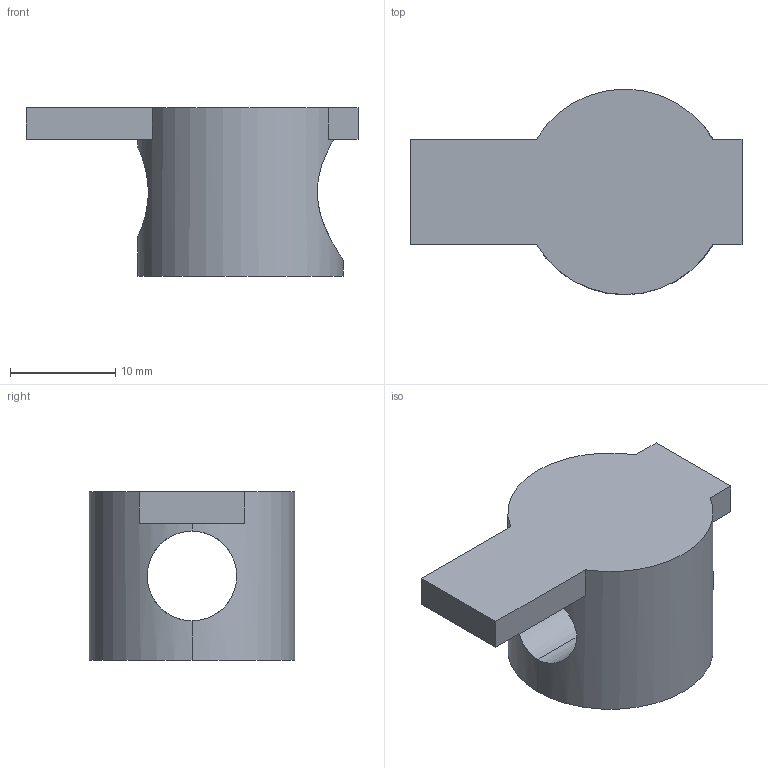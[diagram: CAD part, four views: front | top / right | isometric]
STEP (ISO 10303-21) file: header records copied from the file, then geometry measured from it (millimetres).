
FILE_DESCRIPTION (( 'STEP AP203' ), '1' );
FILE_NAME ('73-CE-IR4545-10.STEP', '2015-07-09T08:23:09', ( '' ), ( '' ), 'SwSTEP 2.0', 'SolidWorks 2013', '' );
FILE_SCHEMA (( 'CONFIG_CONTROL_DESIGN' ));
Length unit declared in the file: millimetre
Products named in the file (1): 73-CE-IR4545-10
Bounding box: 31.5 x 19.5 x 16 mm (x, y, z)
Volume: 3166.5 mm3; surface area: 2437.7 mm2
Topology: 1 solids, 1 shells, 18 faces, 48 edges, 31 vertices
Faces by surface type: plane 12, cylinder 6
Entity records: 769 total; most frequent: CARTESIAN_POINT 232, DIRECTION 96, ORIENTED_EDGE 96, EDGE_CURVE 48, AXIS2_PLACEMENT_3D 33, VERTEX_POINT 31, VECTOR 30, LINE 30
